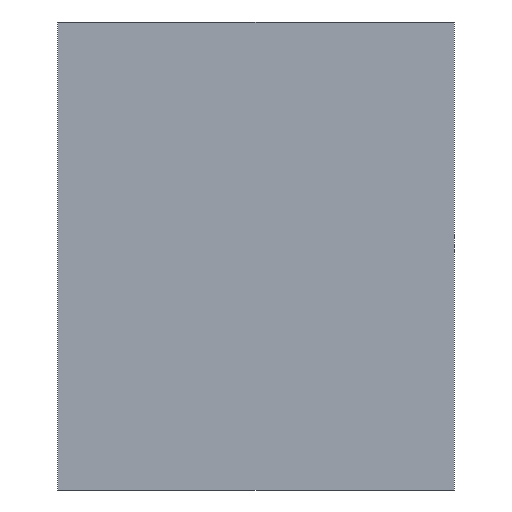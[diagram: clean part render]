
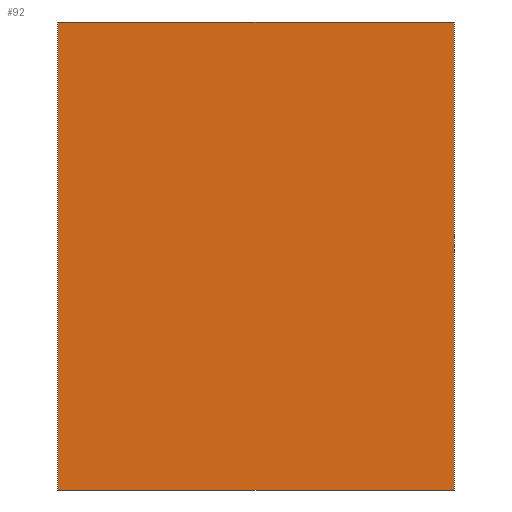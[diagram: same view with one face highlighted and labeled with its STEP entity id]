
A CAD part, top view. The second image highlights one B-rep face of the part: STEP entity #92.
In plain terms, the highlighted planar face has unit normal (0, 0, 1).
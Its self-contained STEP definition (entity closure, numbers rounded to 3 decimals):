
#53=CARTESIAN_POINT('Axis2P3D Location',(0.,0.,0.)) ;
#58=CARTESIAN_POINT('Line Origine',(55.5,0.,0.)) ;
#62=CARTESIAN_POINT('Vertex',(0.,0.,0.)) ;
#64=CARTESIAN_POINT('Vertex',(111.,0.,0.)) ;
#67=CARTESIAN_POINT('Line Origine',(111.,65.5,0.)) ;
#71=CARTESIAN_POINT('Vertex',(111.,131.,0.)) ;
#74=CARTESIAN_POINT('Line Origine',(55.5,131.,0.)) ;
#78=CARTESIAN_POINT('Vertex',(0.,131.,0.)) ;
#81=CARTESIAN_POINT('Line Origine',(0.,65.5,0.)) ;
#54=DIRECTION('Axis2P3D Direction',(0.,0.,1.)) ;
#55=DIRECTION('Axis2P3D XDirection',(1.,0.,0.)) ;
#59=DIRECTION('Vector Direction',(1.,0.,0.)) ;
#68=DIRECTION('Vector Direction',(0.,1.,0.)) ;
#75=DIRECTION('Vector Direction',(-1.,0.,0.)) ;
#82=DIRECTION('Vector Direction',(0.,-1.,0.)) ;
#56=AXIS2_PLACEMENT_3D('Plane Axis2P3D',#53,#54,#55) ;
#87=ORIENTED_EDGE('',*,*,#66,.T.) ;
#88=ORIENTED_EDGE('',*,*,#73,.T.) ;
#89=ORIENTED_EDGE('',*,*,#80,.T.) ;
#90=ORIENTED_EDGE('',*,*,#85,.T.) ;
#60=VECTOR('Line Direction',#59,1.) ;
#69=VECTOR('Line Direction',#68,1.) ;
#76=VECTOR('Line Direction',#75,1.) ;
#83=VECTOR('Line Direction',#82,1.) ;
#92=ADVANCED_FACE('Fill.1',(#91),#57,.T.) ;
#66=EDGE_CURVE('',#63,#65,#61,.T.) ;
#73=EDGE_CURVE('',#65,#72,#70,.T.) ;
#80=EDGE_CURVE('',#72,#79,#77,.T.) ;
#85=EDGE_CURVE('',#79,#63,#84,.T.) ;
#86=EDGE_LOOP('',(#87,#88,#89,#90)) ;
#91=FACE_OUTER_BOUND('',#86,.T.) ;
#61=LINE('Line',#58,#60) ;
#70=LINE('Line',#67,#69) ;
#77=LINE('Line',#74,#76) ;
#84=LINE('Line',#81,#83) ;
#57=PLANE('',#56) ;
#63=VERTEX_POINT('',#62) ;
#65=VERTEX_POINT('',#64) ;
#72=VERTEX_POINT('',#71) ;
#79=VERTEX_POINT('',#78) ;
